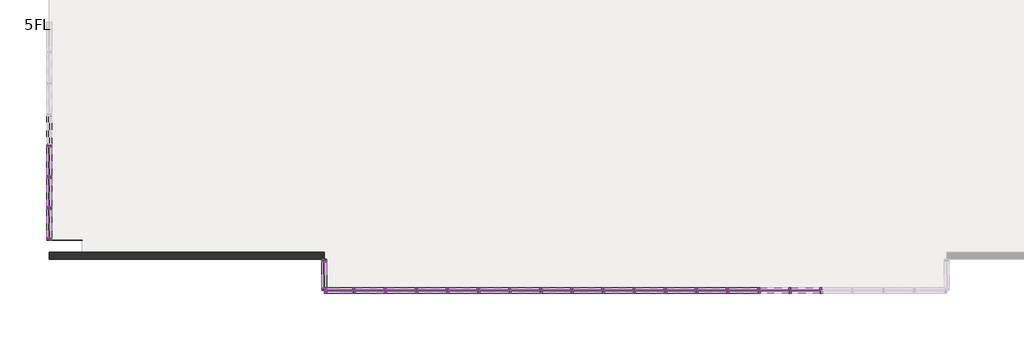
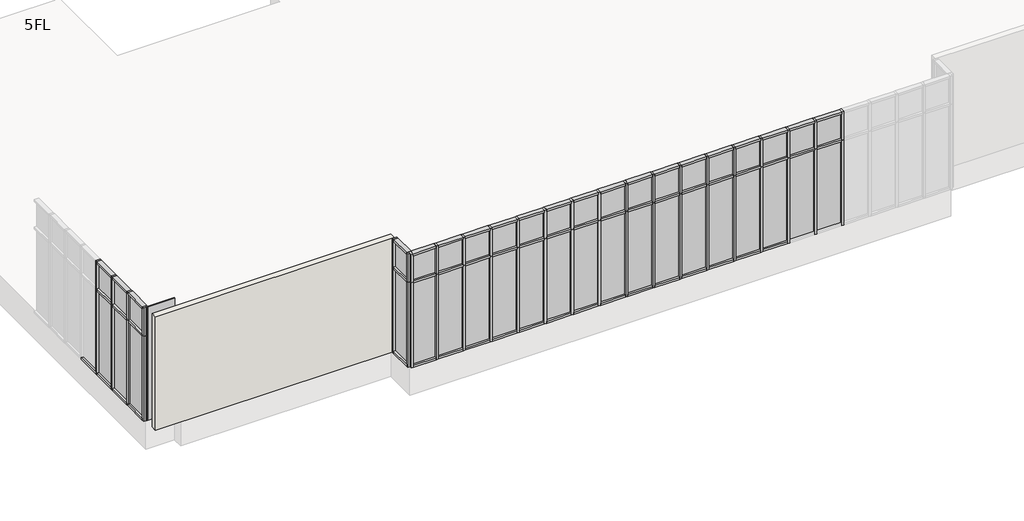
# One storey, part 1 of 4: 105 members, 42 plates, 1 wall.
"""IFC4 building model written with IfcOpenShell, lengths in millimetres."""

from ifc_helpers import new_model, si_unit, frame, origin, place, context, project, spatial, polyline, outline, extrude, transform, mapped, element, save
from components import member_70x150_cdd4dcf9, member_70x150_9a135ce4, member_70x150_66cf63de, member_70x150_26475b18, member_70x150_ad4265bc, member_70x150_e0eddb57, member_70x150_1b280ac3, member_70x150_76429c73, plate_d1366ea1, plate_ab860a3c, plate_28587fd3, plate_4b01b467, plate_396bcf3c, plate_83f08a3e

model = new_model("IFC4")

# Units and contexts
model_context = context("Model", 3, world=origin())
ifc_project = project(units=[si_unit("LENGTHUNIT", "METRE", prefix="MILLI")], contexts=[model_context])

# Site, building, storey
site = spatial("IfcSite", under=ifc_project)
building = spatial("IfcBuilding", under=site)
storey = spatial("IfcBuildingStorey", under=building, Name="5FL", Elevation=16600.0)

# Members
placement = place(None, origin())
member_70x150_shape = member_70x150_cdd4dcf9(model_context)
element("IfcMember", 1, ObjectType="長方形のマリオン : 70x150", at=placement, inside=storey, context=model_context, shape_type="MappedRepresentation", body=[
    mapped(member_70x150_shape, transform((-19630.9784025, -4550.3131013, 16600.0), x_axis=(-1.0, 0.0, 0.0), y_axis=(0.0, 1.0, 0.0), z_axis=(0.0, 0.0, -1.0))),
])
element("IfcMember", 2, ObjectType="長方形のマリオン : 70x150", at=placement, inside=storey, context=model_context, shape_type="MappedRepresentation", body=[
    mapped(member_70x150_shape, transform((-16030.9784025, -4550.3131013, 16600.0), x_axis=(-1.0, 0.0, 0.0), y_axis=(0.0, 1.0, 0.0), z_axis=(0.0, 0.0, -1.0))),
])
element("IfcMember", 3, ObjectType="長方形のマリオン : 70x150", at=placement, inside=storey, context=model_context, shape_type="MappedRepresentation", body=[
    mapped(member_70x150_shape, transform((-20530.9784025, -4550.3131013, 16600.0), x_axis=(-1.0, 0.0, 0.0), y_axis=(0.0, 1.0, 0.0), z_axis=(0.0, 0.0, -1.0))),
])
element("IfcMember", 4, ObjectType="長方形のマリオン : 70x150", at=placement, inside=storey, context=model_context, shape_type="MappedRepresentation", body=[
    mapped(member_70x150_shape, transform((-17830.9784025, -4550.3131013, 16600.0), x_axis=(-1.0, 0.0, 0.0), y_axis=(0.0, 1.0, 0.0), z_axis=(0.0, 0.0, -1.0))),
])
element("IfcMember", 5, ObjectType="長方形のマリオン : 70x150", at=placement, inside=storey, context=model_context, shape_type="MappedRepresentation", body=[
    mapped(member_70x150_shape, transform((-14230.9784025, -4550.3131013, 16600.0), x_axis=(-1.0, 0.0, 0.0), y_axis=(0.0, 1.0, 0.0), z_axis=(0.0, 0.0, -1.0))),
])
element("IfcMember", 6, ObjectType="長方形のマリオン : 70x150", at=placement, inside=storey, context=model_context, shape_type="MappedRepresentation", body=[
    mapped(member_70x150_shape, transform((-18730.9784025, -4550.3131013, 16600.0), x_axis=(-1.0, 0.0, 0.0), y_axis=(0.0, 1.0, 0.0), z_axis=(0.0, 0.0, -1.0))),
])
element("IfcMember", 7, ObjectType="長方形のマリオン : 70x150", at=placement, inside=storey, context=model_context, shape_type="MappedRepresentation", body=[
    mapped(member_70x150_shape, transform((-15130.9784025, -4550.3131013, 16600.0), x_axis=(-1.0, 0.0, 0.0), y_axis=(0.0, 1.0, 0.0), z_axis=(0.0, 0.0, -1.0))),
])
element("IfcMember", 8, ObjectType="長方形のマリオン : 70x150", at=placement, inside=storey, context=model_context, shape_type="MappedRepresentation", body=[
    mapped(member_70x150_shape, transform((-13330.9784025, -4550.3131013, 16600.0), x_axis=(-1.0, 0.0, 0.0), y_axis=(0.0, 1.0, 0.0), z_axis=(0.0, 0.0, -1.0))),
])
element("IfcMember", 9, ObjectType="長方形のマリオン : 70x150", at=placement, inside=storey, context=model_context, shape_type="MappedRepresentation", body=[
    mapped(member_70x150_shape, transform((-16930.9784025, -4550.3131013, 16600.0), x_axis=(-1.0, 0.0, 0.0), y_axis=(0.0, 1.0, 0.0), z_axis=(0.0, 0.0, -1.0))),
])
element("IfcMember", 10, ObjectType="長方形のマリオン : 70x150", at=placement, inside=storey, context=model_context, shape_type="MappedRepresentation", body=[
    mapped(member_70x150_shape, transform((-12430.9784025, -4550.3131013, 16600.0), x_axis=(-1.0, 0.0, 0.0), y_axis=(0.0, 1.0, 0.0), z_axis=(0.0, 0.0, -1.0))),
])
element("IfcMember", 11, ObjectType="長方形のマリオン : 70x150", at=placement, inside=storey, context=model_context, shape_type="MappedRepresentation", body=[
    mapped(member_70x150_shape, transform((-10630.9784025, -4550.3131013, 16600.0), x_axis=(-1.0, 0.0, 0.0), y_axis=(0.0, 1.0, 0.0), z_axis=(0.0, 0.0, -1.0))),
])
element("IfcMember", 12, ObjectType="長方形のマリオン : 70x150", at=placement, inside=storey, context=model_context, shape_type="MappedRepresentation", body=[
    mapped(member_70x150_shape, transform((-7930.9784025, -4550.3131013, 16600.0), x_axis=(-1.0, 0.0, 0.0), y_axis=(0.0, 1.0, 0.0), z_axis=(0.0, 0.0, -1.0))),
])
element("IfcMember", 13, ObjectType="長方形のマリオン : 70x150", at=placement, inside=storey, context=model_context, shape_type="MappedRepresentation", body=[
    mapped(member_70x150_shape, transform((-9730.9784025, -4550.3131013, 16600.0), x_axis=(-1.0, 0.0, 0.0), y_axis=(0.0, 1.0, 0.0), z_axis=(0.0, 0.0, -1.0))),
])
element("IfcMember", 14, ObjectType="長方形のマリオン : 70x150", at=placement, inside=storey, context=model_context, shape_type="MappedRepresentation", body=[
    mapped(member_70x150_shape, transform((-11530.9784025, -4550.3131013, 16600.0), x_axis=(-1.0, 0.0, 0.0), y_axis=(0.0, 1.0, 0.0), z_axis=(0.0, 0.0, -1.0))),
])
element("IfcMember", 15, ObjectType="長方形のマリオン : 70x150", at=placement, inside=storey, context=model_context, shape_type="MappedRepresentation", body=[
    mapped(member_70x150_shape, transform((-8830.9784025, -4550.3131013, 16600.0), x_axis=(-1.0, 0.0, 0.0), y_axis=(0.0, 1.0, 0.0), z_axis=(0.0, 0.0, -1.0))),
])
element("IfcMember", 16, ObjectType="長方形のマリオン : 70x150", at=placement, inside=storey, context=model_context, shape_type="MappedRepresentation", body=[
    mapped(member_70x150_shape, transform((-7030.9784025, -4550.3131013, 16600.0), x_axis=(-1.0, 0.0, 0.0), y_axis=(0.0, 1.0, 0.0), z_axis=(0.0, 0.0, -1.0))),
])
element("IfcMember", 17, ObjectType="長方形のマリオン : 70x150", at=placement, inside=storey, context=model_context, shape_type="MappedRepresentation", body=[
    mapped(member_70x150_shape, transform((-29345.9784025, -365.3131013, 16600.0), x_axis=(0.0, 1.0, 0.0), y_axis=(1.0, 0.0, 0.0), z_axis=(0.0, 0.0, -1.0))),
])
element("IfcMember", 18, ObjectType="長方形のマリオン : 70x150", at=placement, inside=storey, context=model_context, shape_type="MappedRepresentation", body=[
    mapped(member_70x150_shape, transform((-29345.9784025, -2165.3131013, 16600.0), x_axis=(0.0, 1.0, 0.0), y_axis=(1.0, 0.0, 0.0), z_axis=(0.0, 0.0, -1.0))),
])
element("IfcMember", 19, ObjectType="長方形のマリオン : 70x150", at=placement, inside=storey, context=model_context, shape_type="MappedRepresentation", body=[
    mapped(member_70x150_shape, transform((-29345.9784025, -1265.3131013, 16600.0), x_axis=(0.0, 1.0, 0.0), y_axis=(1.0, 0.0, 0.0), z_axis=(0.0, 0.0, -1.0))),
])
member_70x150_2_shape = member_70x150_9a135ce4(model_context)
element("IfcMember", 20, ObjectType="長方形のマリオン : 70x150", at=placement, inside=storey, context=model_context, shape_type="MappedRepresentation", body=[
    mapped(member_70x150_2_shape, transform((-21325.9784025, -4550.3131013, 20600.0), x_axis=(0.0, 0.0, 1.0), y_axis=(0.0, 1.0, 0.0), z_axis=(-1.0, 0.0, 0.0))),
])
element("IfcMember", 21, ObjectType="長方形のマリオン : 70x150", at=placement, inside=storey, context=model_context, shape_type="MappedRepresentation", body=[
    mapped(member_70x150_2_shape, transform((-21395.9784025, -3720.3131013, 20600.0), x_axis=(0.0, 0.0, 1.0), y_axis=(1.0, 0.0, 0.0), z_axis=(0.0, 1.0, 0.0))),
])
member_70x150_3_shape = member_70x150_66cf63de(model_context)
element("IfcMember", 22, ObjectType="長方形のマリオン : 70x150", at=placement, inside=storey, context=model_context, shape_type="MappedRepresentation", body=[
    mapped(member_70x150_3_shape, transform((-19665.9784025, -4550.3131013, 16600.0), x_axis=(0.0, 0.0, -1.0), y_axis=(0.0, 1.0, 0.0), z_axis=(1.0, 0.0, 0.0))),
])
element("IfcMember", 23, ObjectType="長方形のマリオン : 70x150", at=placement, inside=storey, context=model_context, shape_type="MappedRepresentation", body=[
    mapped(member_70x150_3_shape, transform((-18765.9784025, -4550.3131013, 16600.0), x_axis=(0.0, 0.0, -1.0), y_axis=(0.0, 1.0, 0.0), z_axis=(1.0, 0.0, 0.0))),
])
element("IfcMember", 24, ObjectType="長方形のマリオン : 70x150", at=placement, inside=storey, context=model_context, shape_type="MappedRepresentation", body=[
    mapped(member_70x150_3_shape, transform((-17865.9784025, -4550.3131013, 16600.0), x_axis=(0.0, 0.0, -1.0), y_axis=(0.0, 1.0, 0.0), z_axis=(1.0, 0.0, 0.0))),
])
element("IfcMember", 25, ObjectType="長方形のマリオン : 70x150", at=placement, inside=storey, context=model_context, shape_type="MappedRepresentation", body=[
    mapped(member_70x150_3_shape, transform((-16965.9784025, -4550.3131013, 16600.0), x_axis=(0.0, 0.0, -1.0), y_axis=(0.0, 1.0, 0.0), z_axis=(1.0, 0.0, 0.0))),
])
element("IfcMember", 26, ObjectType="長方形のマリオン : 70x150", at=placement, inside=storey, context=model_context, shape_type="MappedRepresentation", body=[
    mapped(member_70x150_3_shape, transform((-16065.9784025, -4550.3131013, 16600.0), x_axis=(0.0, 0.0, -1.0), y_axis=(0.0, 1.0, 0.0), z_axis=(1.0, 0.0, 0.0))),
])
element("IfcMember", 27, ObjectType="長方形のマリオン : 70x150", at=placement, inside=storey, context=model_context, shape_type="MappedRepresentation", body=[
    mapped(member_70x150_3_shape, transform((-11565.9784025, -4550.3131013, 16600.0), x_axis=(0.0, 0.0, -1.0), y_axis=(0.0, 1.0, 0.0), z_axis=(1.0, 0.0, 0.0))),
])
element("IfcMember", 28, ObjectType="長方形のマリオン : 70x150", at=placement, inside=storey, context=model_context, shape_type="MappedRepresentation", body=[
    mapped(member_70x150_3_shape, transform((-9765.9784025, -4550.3131013, 16600.0), x_axis=(0.0, 0.0, -1.0), y_axis=(0.0, 1.0, 0.0), z_axis=(1.0, 0.0, 0.0))),
])
element("IfcMember", 29, ObjectType="長方形のマリオン : 70x150", at=placement, inside=storey, context=model_context, shape_type="MappedRepresentation", body=[
    mapped(member_70x150_3_shape, transform((-13365.9784025, -4550.3131013, 16600.0), x_axis=(0.0, 0.0, -1.0), y_axis=(0.0, 1.0, 0.0), z_axis=(1.0, 0.0, 0.0))),
])
element("IfcMember", 30, ObjectType="長方形のマリオン : 70x150", at=placement, inside=storey, context=model_context, shape_type="MappedRepresentation", body=[
    mapped(member_70x150_3_shape, transform((-12465.9784025, -4550.3131013, 16600.0), x_axis=(0.0, 0.0, -1.0), y_axis=(0.0, 1.0, 0.0), z_axis=(1.0, 0.0, 0.0))),
])
element("IfcMember", 31, ObjectType="長方形のマリオン : 70x150", at=placement, inside=storey, context=model_context, shape_type="MappedRepresentation", body=[
    mapped(member_70x150_3_shape, transform((-14265.9784025, -4550.3131013, 16600.0), x_axis=(0.0, 0.0, -1.0), y_axis=(0.0, 1.0, 0.0), z_axis=(1.0, 0.0, 0.0))),
])
element("IfcMember", 32, ObjectType="長方形のマリオン : 70x150", at=placement, inside=storey, context=model_context, shape_type="MappedRepresentation", body=[
    mapped(member_70x150_3_shape, transform((-10665.9784025, -4550.3131013, 16600.0), x_axis=(0.0, 0.0, -1.0), y_axis=(0.0, 1.0, 0.0), z_axis=(1.0, 0.0, 0.0))),
])
element("IfcMember", 33, ObjectType="長方形のマリオン : 70x150", at=placement, inside=storey, context=model_context, shape_type="MappedRepresentation", body=[
    mapped(member_70x150_3_shape, transform((-15165.9784025, -4550.3131013, 16600.0), x_axis=(0.0, 0.0, -1.0), y_axis=(0.0, 1.0, 0.0), z_axis=(1.0, 0.0, 0.0))),
])
element("IfcMember", 34, ObjectType="長方形のマリオン : 70x150", at=placement, inside=storey, context=model_context, shape_type="MappedRepresentation", body=[
    mapped(member_70x150_3_shape, transform((-8865.9784025, -4550.3131013, 16600.0), x_axis=(0.0, 0.0, -1.0), y_axis=(0.0, 1.0, 0.0), z_axis=(1.0, 0.0, 0.0))),
])
element("IfcMember", 35, ObjectType="長方形のマリオン : 70x150", at=placement, inside=storey, context=model_context, shape_type="MappedRepresentation", body=[
    mapped(member_70x150_3_shape, transform((-29345.9784025, -330.3131013, 16600.0), x_axis=(0.0, 0.0, -1.0), y_axis=(1.0, 0.0, 0.0), z_axis=(0.0, -1.0, 0.0))),
])
element("IfcMember", 36, ObjectType="長方形のマリオン : 70x150", at=placement, inside=storey, context=model_context, shape_type="MappedRepresentation", body=[
    mapped(member_70x150_3_shape, transform((-29345.9784025, -1230.3131013, 16600.0), x_axis=(0.0, 0.0, -1.0), y_axis=(1.0, 0.0, 0.0), z_axis=(0.0, -1.0, 0.0))),
])
element("IfcMember", 37, ObjectType="長方形のマリオン : 70x150", at=placement, inside=storey, context=model_context, shape_type="MappedRepresentation", body=[
    mapped(member_70x150_3_shape, transform((-29345.9784025, -2130.3131013, 16600.0), x_axis=(0.0, 0.0, -1.0), y_axis=(1.0, 0.0, 0.0), z_axis=(0.0, -1.0, 0.0))),
])
element("IfcMember", 38, ObjectType="長方形のマリオン : 70x150", at=placement, inside=storey, context=model_context, shape_type="MappedRepresentation", body=[
    mapped(member_70x150_3_shape, transform((-29345.9784025, -3030.3131013, 16600.0), x_axis=(0.0, 0.0, -1.0), y_axis=(1.0, 0.0, 0.0), z_axis=(0.0, -1.0, 0.0))),
])
element("IfcMember", 39, ObjectType="長方形のマリオン : 70x150", at=placement, inside=storey, context=model_context, shape_type="MappedRepresentation", body=[
    mapped(member_70x150_3_shape, transform((-19595.9784025, -4550.3131013, 20600.0), x_axis=(0.0, 0.0, 1.0), y_axis=(0.0, 1.0, 0.0), z_axis=(-1.0, 0.0, 0.0))),
])
element("IfcMember", 40, ObjectType="長方形のマリオン : 70x150", at=placement, inside=storey, context=model_context, shape_type="MappedRepresentation", body=[
    mapped(member_70x150_3_shape, transform((-18695.9784025, -4550.3131013, 20600.0), x_axis=(0.0, 0.0, 1.0), y_axis=(0.0, 1.0, 0.0), z_axis=(-1.0, 0.0, 0.0))),
])
element("IfcMember", 41, ObjectType="長方形のマリオン : 70x150", at=placement, inside=storey, context=model_context, shape_type="MappedRepresentation", body=[
    mapped(member_70x150_3_shape, transform((-17795.9784025, -4550.3131013, 20600.0), x_axis=(0.0, 0.0, 1.0), y_axis=(0.0, 1.0, 0.0), z_axis=(-1.0, 0.0, 0.0))),
])
element("IfcMember", 42, ObjectType="長方形のマリオン : 70x150", at=placement, inside=storey, context=model_context, shape_type="MappedRepresentation", body=[
    mapped(member_70x150_3_shape, transform((-16895.9784025, -4550.3131013, 20600.0), x_axis=(0.0, 0.0, 1.0), y_axis=(0.0, 1.0, 0.0), z_axis=(-1.0, 0.0, 0.0))),
])
element("IfcMember", 43, ObjectType="長方形のマリオン : 70x150", at=placement, inside=storey, context=model_context, shape_type="MappedRepresentation", body=[
    mapped(member_70x150_3_shape, transform((-15995.9784025, -4550.3131013, 20600.0), x_axis=(0.0, 0.0, 1.0), y_axis=(0.0, 1.0, 0.0), z_axis=(-1.0, 0.0, 0.0))),
])
element("IfcMember", 44, ObjectType="長方形のマリオン : 70x150", at=placement, inside=storey, context=model_context, shape_type="MappedRepresentation", body=[
    mapped(member_70x150_3_shape, transform((-15095.9784025, -4550.3131013, 20600.0), x_axis=(0.0, 0.0, 1.0), y_axis=(0.0, 1.0, 0.0), z_axis=(-1.0, 0.0, 0.0))),
])
element("IfcMember", 45, ObjectType="長方形のマリオン : 70x150", at=placement, inside=storey, context=model_context, shape_type="MappedRepresentation", body=[
    mapped(member_70x150_3_shape, transform((-14195.9784025, -4550.3131013, 20600.0), x_axis=(0.0, 0.0, 1.0), y_axis=(0.0, 1.0, 0.0), z_axis=(-1.0, 0.0, 0.0))),
])
element("IfcMember", 46, ObjectType="長方形のマリオン : 70x150", at=placement, inside=storey, context=model_context, shape_type="MappedRepresentation", body=[
    mapped(member_70x150_3_shape, transform((-13295.9784025, -4550.3131013, 20600.0), x_axis=(0.0, 0.0, 1.0), y_axis=(0.0, 1.0, 0.0), z_axis=(-1.0, 0.0, 0.0))),
])
element("IfcMember", 47, ObjectType="長方形のマリオン : 70x150", at=placement, inside=storey, context=model_context, shape_type="MappedRepresentation", body=[
    mapped(member_70x150_3_shape, transform((-12395.9784025, -4550.3131013, 20600.0), x_axis=(0.0, 0.0, 1.0), y_axis=(0.0, 1.0, 0.0), z_axis=(-1.0, 0.0, 0.0))),
])
element("IfcMember", 48, ObjectType="長方形のマリオン : 70x150", at=placement, inside=storey, context=model_context, shape_type="MappedRepresentation", body=[
    mapped(member_70x150_3_shape, transform((-11495.9784025, -4550.3131013, 20600.0), x_axis=(0.0, 0.0, 1.0), y_axis=(0.0, 1.0, 0.0), z_axis=(-1.0, 0.0, 0.0))),
])
element("IfcMember", 49, ObjectType="長方形のマリオン : 70x150", at=placement, inside=storey, context=model_context, shape_type="MappedRepresentation", body=[
    mapped(member_70x150_3_shape, transform((-10595.9784025, -4550.3131013, 20600.0), x_axis=(0.0, 0.0, 1.0), y_axis=(0.0, 1.0, 0.0), z_axis=(-1.0, 0.0, 0.0))),
])
element("IfcMember", 50, ObjectType="長方形のマリオン : 70x150", at=placement, inside=storey, context=model_context, shape_type="MappedRepresentation", body=[
    mapped(member_70x150_3_shape, transform((-9695.9784025, -4550.3131013, 20600.0), x_axis=(0.0, 0.0, 1.0), y_axis=(0.0, 1.0, 0.0), z_axis=(-1.0, 0.0, 0.0))),
])
element("IfcMember", 51, ObjectType="長方形のマリオン : 70x150", at=placement, inside=storey, context=model_context, shape_type="MappedRepresentation", body=[
    mapped(member_70x150_3_shape, transform((-8795.9784025, -4550.3131013, 20600.0), x_axis=(0.0, 0.0, 1.0), y_axis=(0.0, 1.0, 0.0), z_axis=(-1.0, 0.0, 0.0))),
])
element("IfcMember", 52, ObjectType="長方形のマリオン : 70x150", at=placement, inside=storey, context=model_context, shape_type="MappedRepresentation", body=[
    mapped(member_70x150_3_shape, transform((-7895.9784025, -4550.3131013, 20600.0), x_axis=(0.0, 0.0, 1.0), y_axis=(0.0, 1.0, 0.0), z_axis=(-1.0, 0.0, 0.0))),
])
element("IfcMember", 53, ObjectType="長方形のマリオン : 70x150", at=placement, inside=storey, context=model_context, shape_type="MappedRepresentation", body=[
    mapped(member_70x150_3_shape, transform((-20495.9784025, -4550.3131013, 20600.0), x_axis=(0.0, 0.0, 1.0), y_axis=(0.0, 1.0, 0.0), z_axis=(-1.0, 0.0, 0.0))),
])
element("IfcMember", 54, ObjectType="長方形のマリオン : 70x150", at=placement, inside=storey, context=model_context, shape_type="MappedRepresentation", body=[
    mapped(member_70x150_3_shape, transform((-29345.9784025, -400.3131013, 20600.0), x_axis=(0.0, 0.0, 1.0), y_axis=(1.0, 0.0, 0.0), z_axis=(0.0, 1.0, 0.0))),
])
element("IfcMember", 55, ObjectType="長方形のマリオン : 70x150", at=placement, inside=storey, context=model_context, shape_type="MappedRepresentation", body=[
    mapped(member_70x150_3_shape, transform((-29345.9784025, -1300.3131013, 20600.0), x_axis=(0.0, 0.0, 1.0), y_axis=(1.0, 0.0, 0.0), z_axis=(0.0, 1.0, 0.0))),
])
element("IfcMember", 56, ObjectType="長方形のマリオン : 70x150", at=placement, inside=storey, context=model_context, shape_type="MappedRepresentation", body=[
    mapped(member_70x150_3_shape, transform((-29345.9784025, -2200.3131013, 20600.0), x_axis=(0.0, 0.0, 1.0), y_axis=(1.0, 0.0, 0.0), z_axis=(0.0, 1.0, 0.0))),
])
element("IfcMember", 57, ObjectType="長方形のマリオン : 70x150", at=placement, inside=storey, context=model_context, shape_type="MappedRepresentation", body=[
    mapped(member_70x150_2_shape, transform((-20565.9784025, -4550.3131013, 16600.0), x_axis=(0.0, 0.0, -1.0), y_axis=(0.0, 1.0, 0.0), z_axis=(1.0, 0.0, 0.0))),
])
element("IfcMember", 58, ObjectType="長方形のマリオン : 70x150", at=placement, inside=storey, context=model_context, shape_type="MappedRepresentation", body=[
    mapped(member_70x150_2_shape, transform((-21395.9784025, -4480.3131013, 16600.0), x_axis=(0.0, 0.0, -1.0), y_axis=(1.0, 0.0, 0.0), z_axis=(0.0, -1.0, 0.0))),
])
member_70x150_4_shape = member_70x150_26475b18(model_context)
element("IfcMember", 59, ObjectType="長方形のマリオン : 70x150", at=placement, inside=storey, context=model_context, shape_type="MappedRepresentation", body=[
    mapped(member_70x150_4_shape, transform((-20530.9784025, -4550.3131013, 19600.0), x_axis=(-1.0, 0.0, 0.0), y_axis=(0.0, 1.0, 0.0), z_axis=(0.0, 0.0, -1.0))),
])
element("IfcMember", 60, ObjectType="長方形のマリオン : 70x150", at=placement, inside=storey, context=model_context, shape_type="MappedRepresentation", body=[
    mapped(member_70x150_4_shape, transform((-19630.9784025, -4550.3131013, 19600.0), x_axis=(-1.0, 0.0, 0.0), y_axis=(0.0, 1.0, 0.0), z_axis=(0.0, 0.0, -1.0))),
])
element("IfcMember", 61, ObjectType="長方形のマリオン : 70x150", at=placement, inside=storey, context=model_context, shape_type="MappedRepresentation", body=[
    mapped(member_70x150_4_shape, transform((-18730.9784025, -4550.3131013, 19600.0), x_axis=(-1.0, 0.0, 0.0), y_axis=(0.0, 1.0, 0.0), z_axis=(0.0, 0.0, -1.0))),
])
element("IfcMember", 62, ObjectType="長方形のマリオン : 70x150", at=placement, inside=storey, context=model_context, shape_type="MappedRepresentation", body=[
    mapped(member_70x150_4_shape, transform((-17830.9784025, -4550.3131013, 19600.0), x_axis=(-1.0, 0.0, 0.0), y_axis=(0.0, 1.0, 0.0), z_axis=(0.0, 0.0, -1.0))),
])
element("IfcMember", 63, ObjectType="長方形のマリオン : 70x150", at=placement, inside=storey, context=model_context, shape_type="MappedRepresentation", body=[
    mapped(member_70x150_4_shape, transform((-16930.9784025, -4550.3131013, 19600.0), x_axis=(-1.0, 0.0, 0.0), y_axis=(0.0, 1.0, 0.0), z_axis=(0.0, 0.0, -1.0))),
])
element("IfcMember", 64, ObjectType="長方形のマリオン : 70x150", at=placement, inside=storey, context=model_context, shape_type="MappedRepresentation", body=[
    mapped(member_70x150_4_shape, transform((-16030.9784025, -4550.3131013, 19600.0), x_axis=(-1.0, 0.0, 0.0), y_axis=(0.0, 1.0, 0.0), z_axis=(0.0, 0.0, -1.0))),
])
element("IfcMember", 65, ObjectType="長方形のマリオン : 70x150", at=placement, inside=storey, context=model_context, shape_type="MappedRepresentation", body=[
    mapped(member_70x150_4_shape, transform((-15130.9784025, -4550.3131013, 19600.0), x_axis=(-1.0, 0.0, 0.0), y_axis=(0.0, 1.0, 0.0), z_axis=(0.0, 0.0, -1.0))),
])
element("IfcMember", 66, ObjectType="長方形のマリオン : 70x150", at=placement, inside=storey, context=model_context, shape_type="MappedRepresentation", body=[
    mapped(member_70x150_4_shape, transform((-14230.9784025, -4550.3131013, 19600.0), x_axis=(-1.0, 0.0, 0.0), y_axis=(0.0, 1.0, 0.0), z_axis=(0.0, 0.0, -1.0))),
])
element("IfcMember", 67, ObjectType="長方形のマリオン : 70x150", at=placement, inside=storey, context=model_context, shape_type="MappedRepresentation", body=[
    mapped(member_70x150_4_shape, transform((-13330.9784025, -4550.3131013, 19600.0), x_axis=(-1.0, 0.0, 0.0), y_axis=(0.0, 1.0, 0.0), z_axis=(0.0, 0.0, -1.0))),
])
element("IfcMember", 68, ObjectType="長方形のマリオン : 70x150", at=placement, inside=storey, context=model_context, shape_type="MappedRepresentation", body=[
    mapped(member_70x150_4_shape, transform((-12430.9784025, -4550.3131013, 19600.0), x_axis=(-1.0, 0.0, 0.0), y_axis=(0.0, 1.0, 0.0), z_axis=(0.0, 0.0, -1.0))),
])
element("IfcMember", 69, ObjectType="長方形のマリオン : 70x150", at=placement, inside=storey, context=model_context, shape_type="MappedRepresentation", body=[
    mapped(member_70x150_4_shape, transform((-11530.9784025, -4550.3131013, 19600.0), x_axis=(-1.0, 0.0, 0.0), y_axis=(0.0, 1.0, 0.0), z_axis=(0.0, 0.0, -1.0))),
])
element("IfcMember", 70, ObjectType="長方形のマリオン : 70x150", at=placement, inside=storey, context=model_context, shape_type="MappedRepresentation", body=[
    mapped(member_70x150_4_shape, transform((-10630.9784025, -4550.3131013, 19600.0), x_axis=(-1.0, 0.0, 0.0), y_axis=(0.0, 1.0, 0.0), z_axis=(0.0, 0.0, -1.0))),
])
element("IfcMember", 71, ObjectType="長方形のマリオン : 70x150", at=placement, inside=storey, context=model_context, shape_type="MappedRepresentation", body=[
    mapped(member_70x150_4_shape, transform((-9730.9784025, -4550.3131013, 19600.0), x_axis=(-1.0, 0.0, 0.0), y_axis=(0.0, 1.0, 0.0), z_axis=(0.0, 0.0, -1.0))),
])
element("IfcMember", 72, ObjectType="長方形のマリオン : 70x150", at=placement, inside=storey, context=model_context, shape_type="MappedRepresentation", body=[
    mapped(member_70x150_4_shape, transform((-8830.9784025, -4550.3131013, 19600.0), x_axis=(-1.0, 0.0, 0.0), y_axis=(0.0, 1.0, 0.0), z_axis=(0.0, 0.0, -1.0))),
])
element("IfcMember", 73, ObjectType="長方形のマリオン : 70x150", at=placement, inside=storey, context=model_context, shape_type="MappedRepresentation", body=[
    mapped(member_70x150_4_shape, transform((-7930.9784025, -4550.3131013, 19600.0), x_axis=(-1.0, 0.0, 0.0), y_axis=(0.0, 1.0, 0.0), z_axis=(0.0, 0.0, -1.0))),
])
element("IfcMember", 74, ObjectType="長方形のマリオン : 70x150", at=placement, inside=storey, context=model_context, shape_type="MappedRepresentation", body=[
    mapped(member_70x150_4_shape, transform((-7030.9784025, -4550.3131013, 19600.0), x_axis=(-1.0, 0.0, 0.0), y_axis=(0.0, 1.0, 0.0), z_axis=(0.0, 0.0, -1.0))),
])
element("IfcMember", 75, ObjectType="長方形のマリオン : 70x150", at=placement, inside=storey, context=model_context, shape_type="MappedRepresentation", body=[
    mapped(member_70x150_4_shape, transform((-29345.9784025, -365.3131013, 19600.0), x_axis=(0.0, 1.0, 0.0), y_axis=(1.0, 0.0, 0.0), z_axis=(0.0, 0.0, -1.0))),
])
element("IfcMember", 76, ObjectType="長方形のマリオン : 70x150", at=placement, inside=storey, context=model_context, shape_type="MappedRepresentation", body=[
    mapped(member_70x150_4_shape, transform((-29345.9784025, -2165.3131013, 19600.0), x_axis=(0.0, 1.0, 0.0), y_axis=(1.0, 0.0, 0.0), z_axis=(0.0, 0.0, -1.0))),
])
element("IfcMember", 77, ObjectType="長方形のマリオン : 70x150", at=placement, inside=storey, context=model_context, shape_type="MappedRepresentation", body=[
    mapped(member_70x150_4_shape, transform((-29345.9784025, -1265.3131013, 19600.0), x_axis=(0.0, 1.0, 0.0), y_axis=(1.0, 0.0, 0.0), z_axis=(0.0, 0.0, -1.0))),
])
member_70x150_5_shape = member_70x150_ad4265bc(model_context)
element("IfcMember", 78, ObjectType="長方形のマリオン : 70x150", at=placement, inside=storey, context=model_context, shape_type="MappedRepresentation", body=[
    mapped(member_70x150_5_shape, transform((-17795.9784025, -4550.3131013, 19600.0), x_axis=(0.0, 0.0, 1.0), y_axis=(0.0, 1.0, 0.0), z_axis=(-1.0, 0.0, 0.0))),
])
element("IfcMember", 79, ObjectType="長方形のマリオン : 70x150", at=placement, inside=storey, context=model_context, shape_type="MappedRepresentation", body=[
    mapped(member_70x150_5_shape, transform((-13295.9784025, -4550.3131013, 19600.0), x_axis=(0.0, 0.0, 1.0), y_axis=(0.0, 1.0, 0.0), z_axis=(-1.0, 0.0, 0.0))),
])
element("IfcMember", 80, ObjectType="長方形のマリオン : 70x150", at=placement, inside=storey, context=model_context, shape_type="MappedRepresentation", body=[
    mapped(member_70x150_5_shape, transform((-12395.9784025, -4550.3131013, 19600.0), x_axis=(0.0, 0.0, 1.0), y_axis=(0.0, 1.0, 0.0), z_axis=(-1.0, 0.0, 0.0))),
])
element("IfcMember", 81, ObjectType="長方形のマリオン : 70x150", at=placement, inside=storey, context=model_context, shape_type="MappedRepresentation", body=[
    mapped(member_70x150_5_shape, transform((-9695.9784025, -4550.3131013, 19600.0), x_axis=(0.0, 0.0, 1.0), y_axis=(0.0, 1.0, 0.0), z_axis=(-1.0, 0.0, 0.0))),
])
element("IfcMember", 82, ObjectType="長方形のマリオン : 70x150", at=placement, inside=storey, context=model_context, shape_type="MappedRepresentation", body=[
    mapped(member_70x150_5_shape, transform((-15995.9784025, -4550.3131013, 19600.0), x_axis=(0.0, 0.0, 1.0), y_axis=(0.0, 1.0, 0.0), z_axis=(-1.0, 0.0, 0.0))),
])
element("IfcMember", 83, ObjectType="長方形のマリオン : 70x150", at=placement, inside=storey, context=model_context, shape_type="MappedRepresentation", body=[
    mapped(member_70x150_5_shape, transform((-15095.9784025, -4550.3131013, 19600.0), x_axis=(0.0, 0.0, 1.0), y_axis=(0.0, 1.0, 0.0), z_axis=(-1.0, 0.0, 0.0))),
])
element("IfcMember", 84, ObjectType="長方形のマリオン : 70x150", at=placement, inside=storey, context=model_context, shape_type="MappedRepresentation", body=[
    mapped(member_70x150_5_shape, transform((-16895.9784025, -4550.3131013, 19600.0), x_axis=(0.0, 0.0, 1.0), y_axis=(0.0, 1.0, 0.0), z_axis=(-1.0, 0.0, 0.0))),
])
element("IfcMember", 85, ObjectType="長方形のマリオン : 70x150", at=placement, inside=storey, context=model_context, shape_type="MappedRepresentation", body=[
    mapped(member_70x150_5_shape, transform((-8795.9784025, -4550.3131013, 19600.0), x_axis=(0.0, 0.0, 1.0), y_axis=(0.0, 1.0, 0.0), z_axis=(-1.0, 0.0, 0.0))),
])
element("IfcMember", 86, ObjectType="長方形のマリオン : 70x150", at=placement, inside=storey, context=model_context, shape_type="MappedRepresentation", body=[
    mapped(member_70x150_5_shape, transform((-11495.9784025, -4550.3131013, 19600.0), x_axis=(0.0, 0.0, 1.0), y_axis=(0.0, 1.0, 0.0), z_axis=(-1.0, 0.0, 0.0))),
])
element("IfcMember", 87, ObjectType="長方形のマリオン : 70x150", at=placement, inside=storey, context=model_context, shape_type="MappedRepresentation", body=[
    mapped(member_70x150_5_shape, transform((-14195.9784025, -4550.3131013, 19600.0), x_axis=(0.0, 0.0, 1.0), y_axis=(0.0, 1.0, 0.0), z_axis=(-1.0, 0.0, 0.0))),
])
element("IfcMember", 88, ObjectType="長方形のマリオン : 70x150", at=placement, inside=storey, context=model_context, shape_type="MappedRepresentation", body=[
    mapped(member_70x150_5_shape, transform((-7895.9784025, -4550.3131013, 19600.0), x_axis=(0.0, 0.0, 1.0), y_axis=(0.0, 1.0, 0.0), z_axis=(-1.0, 0.0, 0.0))),
])
element("IfcMember", 89, ObjectType="長方形のマリオン : 70x150", at=placement, inside=storey, context=model_context, shape_type="MappedRepresentation", body=[
    mapped(member_70x150_5_shape, transform((-19595.9784025, -4550.3131013, 19600.0), x_axis=(0.0, 0.0, 1.0), y_axis=(0.0, 1.0, 0.0), z_axis=(-1.0, 0.0, 0.0))),
])
element("IfcMember", 90, ObjectType="長方形のマリオン : 70x150", at=placement, inside=storey, context=model_context, shape_type="MappedRepresentation", body=[
    mapped(member_70x150_5_shape, transform((-18695.9784025, -4550.3131013, 19600.0), x_axis=(0.0, 0.0, 1.0), y_axis=(0.0, 1.0, 0.0), z_axis=(-1.0, 0.0, 0.0))),
])
element("IfcMember", 91, ObjectType="長方形のマリオン : 70x150", at=placement, inside=storey, context=model_context, shape_type="MappedRepresentation", body=[
    mapped(member_70x150_5_shape, transform((-10595.9784025, -4550.3131013, 19600.0), x_axis=(0.0, 0.0, 1.0), y_axis=(0.0, 1.0, 0.0), z_axis=(-1.0, 0.0, 0.0))),
])
element("IfcMember", 92, ObjectType="長方形のマリオン : 70x150", at=placement, inside=storey, context=model_context, shape_type="MappedRepresentation", body=[
    mapped(member_70x150_5_shape, transform((-20495.9784025, -4550.3131013, 19600.0), x_axis=(0.0, 0.0, 1.0), y_axis=(0.0, 1.0, 0.0), z_axis=(-1.0, 0.0, 0.0))),
])
element("IfcMember", 93, ObjectType="長方形のマリオン : 70x150", at=placement, inside=storey, context=model_context, shape_type="MappedRepresentation", body=[
    mapped(member_70x150_5_shape, transform((-29345.9784025, -2200.3131013, 19600.0), x_axis=(0.0, 0.0, 1.0), y_axis=(1.0, 0.0, 0.0), z_axis=(0.0, 1.0, 0.0))),
])
element("IfcMember", 94, ObjectType="長方形のマリオン : 70x150", at=placement, inside=storey, context=model_context, shape_type="MappedRepresentation", body=[
    mapped(member_70x150_5_shape, transform((-29345.9784025, -400.3131013, 19600.0), x_axis=(0.0, 0.0, 1.0), y_axis=(1.0, 0.0, 0.0), z_axis=(0.0, 1.0, 0.0))),
])
element("IfcMember", 95, ObjectType="長方形のマリオン : 70x150", at=placement, inside=storey, context=model_context, shape_type="MappedRepresentation", body=[
    mapped(member_70x150_5_shape, transform((-29345.9784025, -1300.3131013, 19600.0), x_axis=(0.0, 0.0, 1.0), y_axis=(1.0, 0.0, 0.0), z_axis=(0.0, 1.0, 0.0))),
])
member_70x150_6_shape = member_70x150_e0eddb57(model_context)
element("IfcMember", 96, ObjectType="長方形のマリオン : 70x150", at=placement, inside=storey, context=model_context, shape_type="MappedRepresentation", body=[
    mapped(member_70x150_6_shape, transform((-21325.9784025, -4550.3131013, 19600.0), x_axis=(0.0, 0.0, 1.0), y_axis=(0.0, 1.0, 0.0), z_axis=(-1.0, 0.0, 0.0))),
])
element("IfcMember", 97, ObjectType="長方形のマリオン : 70x150", at=placement, inside=storey, context=model_context, shape_type="MappedRepresentation", body=[
    mapped(member_70x150_6_shape, transform((-21395.9784025, -3720.3131013, 19600.0), x_axis=(0.0, 0.0, 1.0), y_axis=(1.0, 0.0, 0.0), z_axis=(0.0, 1.0, 0.0))),
])
member_70x150_7_shape = member_70x150_1b280ac3(model_context)
element("IfcMember", 98, ObjectType="長方形のマリオン : 70x150", at=placement, inside=storey, context=model_context, shape_type="MappedRepresentation", body=[
    mapped(member_70x150_7_shape, transform((-21395.9784025, -4550.3131013, 16600.0), x_axis=(-1.0, 0.0, 0.0), y_axis=(0.0, 1.0, 0.0), z_axis=(0.0, 0.0, -1.0))),
])
element("IfcMember", 99, ObjectType="長方形のマリオン : 70x150", at=placement, inside=storey, context=model_context, shape_type="MappedRepresentation", body=[
    mapped(member_70x150_7_shape, transform((-21395.9784025, -3650.3131013, 16600.0), x_axis=(0.0, 1.0, 0.0), y_axis=(1.0, 0.0, 0.0), z_axis=(0.0, 0.0, -1.0))),
])
member_70x150_8_shape = member_70x150_76429c73(model_context)
element("IfcMember", 100, ObjectType="長方形のマリオン : 70x150", at=placement, inside=storey, context=model_context, shape_type="MappedRepresentation", body=[
    mapped(member_70x150_8_shape, transform((-29345.9784025, -3100.3131013, 20600.0), x_axis=(0.0, -1.0, 0.0), y_axis=(1.0, 0.0, 0.0), z_axis=(0.0, 0.0, 1.0))),
])
element("IfcMember", 101, ObjectType="長方形のマリオン : 70x150", at=placement, inside=storey, context=model_context, shape_type="MappedRepresentation", body=[
    mapped(member_70x150_8_shape, transform((-21395.9784025, -4550.3131013, 20600.0), x_axis=(0.0, -1.0, 0.0), y_axis=(1.0, 0.0, 0.0), z_axis=(0.0, 0.0, 1.0))),
])
element("IfcMember", 102, ObjectType="長方形のマリオン : 70x150", at=placement, inside=storey, context=model_context, shape_type="MappedRepresentation", body=[
    mapped(member_70x150_8_shape, transform((-21395.9784025, -4550.3131013, 19600.0), x_axis=(-1.0, 0.0, 0.0), y_axis=(0.0, 1.0, 0.0), z_axis=(0.0, 0.0, -1.0))),
])
element("IfcMember", 103, ObjectType="長方形のマリオン : 70x150", at=placement, inside=storey, context=model_context, shape_type="MappedRepresentation", body=[
    mapped(member_70x150_8_shape, transform((-21395.9784025, -3650.3131013, 19600.0), x_axis=(0.0, 1.0, 0.0), y_axis=(1.0, 0.0, 0.0), z_axis=(0.0, 0.0, -1.0))),
])
element("IfcMember", 104, ObjectType="長方形のマリオン : 70x150", at=placement, inside=storey, context=model_context, shape_type="MappedRepresentation", body=[
    mapped(member_70x150_7_shape, transform((-29345.9784025, -3100.3131013, 19600.0), x_axis=(0.0, -1.0, 0.0), y_axis=(1.0, 0.0, 0.0), z_axis=(0.0, 0.0, 1.0))),
])
element("IfcMember", 105, ObjectType="長方形のマリオン : 70x150", at=placement, inside=storey, context=model_context, shape_type="MappedRepresentation", body=[
    mapped(member_70x150_7_shape, transform((-21395.9784025, -4550.3131013, 19600.0), x_axis=(0.0, -1.0, 0.0), y_axis=(1.0, 0.0, 0.0), z_axis=(0.0, 0.0, 1.0))),
])

# Plates
plate_shape = plate_d1366ea1(model_context)
element("IfcPlate", 106, ObjectType="システム パネル : 標準", at=placement, inside=storey, context=model_context, shape_type="MappedRepresentation", body=[
    mapped(plate_shape, transform((-28845.9784025, -3100.3131013, 16600.0), x_axis=(-1.0, 0.0, 0.0), y_axis=(0.0, -1.0, 0.0), z_axis=(0.0, 0.0, 1.0))),
])
plate_2_shape = plate_ab860a3c(model_context)
element("IfcPlate", 107, ObjectType="システム パネル : 標準", at=placement, inside=storey, context=model_context, shape_type="MappedRepresentation", body=[
    mapped(plate_2_shape, transform((-29320.9784025, -3100.3131013, 16600.0), x_axis=(-1.0, 0.0, 0.0), y_axis=(0.0, -1.0, 0.0), z_axis=(0.0, 0.0, 1.0))),
])
plate_3_shape = plate_28587fd3(model_context)
element("IfcPlate", 108, ObjectType="システム パネル : 標準", at=placement, inside=storey, context=model_context, shape_type="MappedRepresentation", body=[
    mapped(plate_3_shape, transform((-29345.9784025, -2615.3131013, 16670.0), x_axis=(0.0, 1.0, 0.0), y_axis=(-1.0, 0.0, 0.0), z_axis=(0.0, 0.0, 1.0))),
])
element("IfcPlate", 109, ObjectType="システム パネル : 標準", at=placement, inside=storey, context=model_context, shape_type="MappedRepresentation", body=[
    mapped(plate_3_shape, transform((-29345.9784025, -1715.3131013, 16670.0), x_axis=(0.0, 1.0, 0.0), y_axis=(-1.0, 0.0, 0.0), z_axis=(0.0, 0.0, 1.0))),
])
element("IfcPlate", 110, ObjectType="システム パネル : 標準", at=placement, inside=storey, context=model_context, shape_type="MappedRepresentation", body=[
    mapped(plate_3_shape, transform((-29345.9784025, -815.3131013, 16670.0), x_axis=(0.0, 1.0, 0.0), y_axis=(-1.0, 0.0, 0.0), z_axis=(0.0, 0.0, 1.0))),
])
element("IfcPlate", 111, ObjectType="システム パネル : 標準", at=placement, inside=storey, context=model_context, shape_type="MappedRepresentation", body=[
    mapped(plate_3_shape, transform((-7480.9784025, -4550.3131013, 16670.0), x_axis=(-1.0, 0.0, 0.0), y_axis=(0.0, -1.0, 0.0), z_axis=(0.0, 0.0, 1.0))),
])
element("IfcPlate", 112, ObjectType="システム パネル : 標準", at=placement, inside=storey, context=model_context, shape_type="MappedRepresentation", body=[
    mapped(plate_3_shape, transform((-8380.9784025, -4550.3131013, 16670.0), x_axis=(-1.0, 0.0, 0.0), y_axis=(0.0, -1.0, 0.0), z_axis=(0.0, 0.0, 1.0))),
])
element("IfcPlate", 113, ObjectType="システム パネル : 標準", at=placement, inside=storey, context=model_context, shape_type="MappedRepresentation", body=[
    mapped(plate_3_shape, transform((-9280.9784025, -4550.3131013, 16670.0), x_axis=(-1.0, 0.0, 0.0), y_axis=(0.0, -1.0, 0.0), z_axis=(0.0, 0.0, 1.0))),
])
element("IfcPlate", 114, ObjectType="システム パネル : 標準", at=placement, inside=storey, context=model_context, shape_type="MappedRepresentation", body=[
    mapped(plate_3_shape, transform((-10180.9784025, -4550.3131013, 16670.0), x_axis=(-1.0, 0.0, 0.0), y_axis=(0.0, -1.0, 0.0), z_axis=(0.0, 0.0, 1.0))),
])
element("IfcPlate", 115, ObjectType="システム パネル : 標準", at=placement, inside=storey, context=model_context, shape_type="MappedRepresentation", body=[
    mapped(plate_3_shape, transform((-11080.9784025, -4550.3131013, 16670.0), x_axis=(-1.0, 0.0, 0.0), y_axis=(0.0, -1.0, 0.0), z_axis=(0.0, 0.0, 1.0))),
])
element("IfcPlate", 116, ObjectType="システム パネル : 標準", at=placement, inside=storey, context=model_context, shape_type="MappedRepresentation", body=[
    mapped(plate_3_shape, transform((-11980.9784025, -4550.3131013, 16670.0), x_axis=(-1.0, 0.0, 0.0), y_axis=(0.0, -1.0, 0.0), z_axis=(0.0, 0.0, 1.0))),
])
element("IfcPlate", 117, ObjectType="システム パネル : 標準", at=placement, inside=storey, context=model_context, shape_type="MappedRepresentation", body=[
    mapped(plate_3_shape, transform((-12880.9784025, -4550.3131013, 16670.0), x_axis=(-1.0, 0.0, 0.0), y_axis=(0.0, -1.0, 0.0), z_axis=(0.0, 0.0, 1.0))),
])
element("IfcPlate", 118, ObjectType="システム パネル : 標準", at=placement, inside=storey, context=model_context, shape_type="MappedRepresentation", body=[
    mapped(plate_3_shape, transform((-13780.9784025, -4550.3131013, 16670.0), x_axis=(-1.0, 0.0, 0.0), y_axis=(0.0, -1.0, 0.0), z_axis=(0.0, 0.0, 1.0))),
])
element("IfcPlate", 119, ObjectType="システム パネル : 標準", at=placement, inside=storey, context=model_context, shape_type="MappedRepresentation", body=[
    mapped(plate_3_shape, transform((-14680.9784025, -4550.3131013, 16670.0), x_axis=(-1.0, 0.0, 0.0), y_axis=(0.0, -1.0, 0.0), z_axis=(0.0, 0.0, 1.0))),
])
element("IfcPlate", 120, ObjectType="システム パネル : 標準", at=placement, inside=storey, context=model_context, shape_type="MappedRepresentation", body=[
    mapped(plate_3_shape, transform((-15580.9784025, -4550.3131013, 16670.0), x_axis=(-1.0, 0.0, 0.0), y_axis=(0.0, -1.0, 0.0), z_axis=(0.0, 0.0, 1.0))),
])
element("IfcPlate", 121, ObjectType="システム パネル : 標準", at=placement, inside=storey, context=model_context, shape_type="MappedRepresentation", body=[
    mapped(plate_3_shape, transform((-16480.9784025, -4550.3131013, 16670.0), x_axis=(-1.0, 0.0, 0.0), y_axis=(0.0, -1.0, 0.0), z_axis=(0.0, 0.0, 1.0))),
])
element("IfcPlate", 122, ObjectType="システム パネル : 標準", at=placement, inside=storey, context=model_context, shape_type="MappedRepresentation", body=[
    mapped(plate_3_shape, transform((-17380.9784025, -4550.3131013, 16670.0), x_axis=(-1.0, 0.0, 0.0), y_axis=(0.0, -1.0, 0.0), z_axis=(0.0, 0.0, 1.0))),
])
element("IfcPlate", 123, ObjectType="システム パネル : 標準", at=placement, inside=storey, context=model_context, shape_type="MappedRepresentation", body=[
    mapped(plate_3_shape, transform((-18280.9784025, -4550.3131013, 16670.0), x_axis=(-1.0, 0.0, 0.0), y_axis=(0.0, -1.0, 0.0), z_axis=(0.0, 0.0, 1.0))),
])
element("IfcPlate", 124, ObjectType="システム パネル : 標準", at=placement, inside=storey, context=model_context, shape_type="MappedRepresentation", body=[
    mapped(plate_3_shape, transform((-19180.9784025, -4550.3131013, 16670.0), x_axis=(-1.0, 0.0, 0.0), y_axis=(0.0, -1.0, 0.0), z_axis=(0.0, 0.0, 1.0))),
])
element("IfcPlate", 125, ObjectType="システム パネル : 標準", at=placement, inside=storey, context=model_context, shape_type="MappedRepresentation", body=[
    mapped(plate_3_shape, transform((-20080.9784025, -4550.3131013, 16670.0), x_axis=(-1.0, 0.0, 0.0), y_axis=(0.0, -1.0, 0.0), z_axis=(0.0, 0.0, 1.0))),
])
plate_4_shape = plate_4b01b467(model_context)
element("IfcPlate", 126, ObjectType="システム パネル : 標準", at=placement, inside=storey, context=model_context, shape_type="MappedRepresentation", body=[
    mapped(plate_4_shape, transform((-20945.9784025, -4550.3131013, 16670.0), x_axis=(-1.0, 0.0, 0.0), y_axis=(0.0, -1.0, 0.0), z_axis=(0.0, 0.0, 1.0))),
])
element("IfcPlate", 127, ObjectType="システム パネル : 標準", at=placement, inside=storey, context=model_context, shape_type="MappedRepresentation", body=[
    mapped(plate_4_shape, transform((-21395.9784025, -4100.3131013, 16670.0), x_axis=(0.0, 1.0, 0.0), y_axis=(-1.0, 0.0, 0.0), z_axis=(0.0, 0.0, 1.0))),
])
plate_5_shape = plate_396bcf3c(model_context)
element("IfcPlate", 128, ObjectType="システム パネル : 標準", at=placement, inside=storey, context=model_context, shape_type="MappedRepresentation", body=[
    mapped(plate_5_shape, transform((-7480.9784025, -4550.3131013, 19635.0), x_axis=(-1.0, 0.0, 0.0), y_axis=(0.0, -1.0, 0.0), z_axis=(0.0, 0.0, 1.0))),
])
element("IfcPlate", 129, ObjectType="システム パネル : 標準", at=placement, inside=storey, context=model_context, shape_type="MappedRepresentation", body=[
    mapped(plate_5_shape, transform((-8380.9784025, -4550.3131013, 19635.0), x_axis=(-1.0, 0.0, 0.0), y_axis=(0.0, -1.0, 0.0), z_axis=(0.0, 0.0, 1.0))),
])
element("IfcPlate", 130, ObjectType="システム パネル : 標準", at=placement, inside=storey, context=model_context, shape_type="MappedRepresentation", body=[
    mapped(plate_5_shape, transform((-9280.9784025, -4550.3131013, 19635.0), x_axis=(-1.0, 0.0, 0.0), y_axis=(0.0, -1.0, 0.0), z_axis=(0.0, 0.0, 1.0))),
])
element("IfcPlate", 131, ObjectType="システム パネル : 標準", at=placement, inside=storey, context=model_context, shape_type="MappedRepresentation", body=[
    mapped(plate_5_shape, transform((-10180.9784025, -4550.3131013, 19635.0), x_axis=(-1.0, 0.0, 0.0), y_axis=(0.0, -1.0, 0.0), z_axis=(0.0, 0.0, 1.0))),
])
element("IfcPlate", 132, ObjectType="システム パネル : 標準", at=placement, inside=storey, context=model_context, shape_type="MappedRepresentation", body=[
    mapped(plate_5_shape, transform((-11080.9784025, -4550.3131013, 19635.0), x_axis=(-1.0, 0.0, 0.0), y_axis=(0.0, -1.0, 0.0), z_axis=(0.0, 0.0, 1.0))),
])
element("IfcPlate", 133, ObjectType="システム パネル : 標準", at=placement, inside=storey, context=model_context, shape_type="MappedRepresentation", body=[
    mapped(plate_5_shape, transform((-11980.9784025, -4550.3131013, 19635.0), x_axis=(-1.0, 0.0, 0.0), y_axis=(0.0, -1.0, 0.0), z_axis=(0.0, 0.0, 1.0))),
])
element("IfcPlate", 134, ObjectType="システム パネル : 標準", at=placement, inside=storey, context=model_context, shape_type="MappedRepresentation", body=[
    mapped(plate_5_shape, transform((-12880.9784025, -4550.3131013, 19635.0), x_axis=(-1.0, 0.0, 0.0), y_axis=(0.0, -1.0, 0.0), z_axis=(0.0, 0.0, 1.0))),
])
element("IfcPlate", 135, ObjectType="システム パネル : 標準", at=placement, inside=storey, context=model_context, shape_type="MappedRepresentation", body=[
    mapped(plate_5_shape, transform((-13780.9784025, -4550.3131013, 19635.0), x_axis=(-1.0, 0.0, 0.0), y_axis=(0.0, -1.0, 0.0), z_axis=(0.0, 0.0, 1.0))),
])
element("IfcPlate", 136, ObjectType="システム パネル : 標準", at=placement, inside=storey, context=model_context, shape_type="MappedRepresentation", body=[
    mapped(plate_5_shape, transform((-14680.9784025, -4550.3131013, 19635.0), x_axis=(-1.0, 0.0, 0.0), y_axis=(0.0, -1.0, 0.0), z_axis=(0.0, 0.0, 1.0))),
])
element("IfcPlate", 137, ObjectType="システム パネル : 標準", at=placement, inside=storey, context=model_context, shape_type="MappedRepresentation", body=[
    mapped(plate_5_shape, transform((-15580.9784025, -4550.3131013, 19635.0), x_axis=(-1.0, 0.0, 0.0), y_axis=(0.0, -1.0, 0.0), z_axis=(0.0, 0.0, 1.0))),
])
element("IfcPlate", 138, ObjectType="システム パネル : 標準", at=placement, inside=storey, context=model_context, shape_type="MappedRepresentation", body=[
    mapped(plate_5_shape, transform((-16480.9784025, -4550.3131013, 19635.0), x_axis=(-1.0, 0.0, 0.0), y_axis=(0.0, -1.0, 0.0), z_axis=(0.0, 0.0, 1.0))),
])
element("IfcPlate", 139, ObjectType="システム パネル : 標準", at=placement, inside=storey, context=model_context, shape_type="MappedRepresentation", body=[
    mapped(plate_5_shape, transform((-17380.9784025, -4550.3131013, 19635.0), x_axis=(-1.0, 0.0, 0.0), y_axis=(0.0, -1.0, 0.0), z_axis=(0.0, 0.0, 1.0))),
])
element("IfcPlate", 140, ObjectType="システム パネル : 標準", at=placement, inside=storey, context=model_context, shape_type="MappedRepresentation", body=[
    mapped(plate_5_shape, transform((-18280.9784025, -4550.3131013, 19635.0), x_axis=(-1.0, 0.0, 0.0), y_axis=(0.0, -1.0, 0.0), z_axis=(0.0, 0.0, 1.0))),
])
element("IfcPlate", 141, ObjectType="システム パネル : 標準", at=placement, inside=storey, context=model_context, shape_type="MappedRepresentation", body=[
    mapped(plate_5_shape, transform((-19180.9784025, -4550.3131013, 19635.0), x_axis=(-1.0, 0.0, 0.0), y_axis=(0.0, -1.0, 0.0), z_axis=(0.0, 0.0, 1.0))),
])
element("IfcPlate", 142, ObjectType="システム パネル : 標準", at=placement, inside=storey, context=model_context, shape_type="MappedRepresentation", body=[
    mapped(plate_5_shape, transform((-20080.9784025, -4550.3131013, 19635.0), x_axis=(-1.0, 0.0, 0.0), y_axis=(0.0, -1.0, 0.0), z_axis=(0.0, 0.0, 1.0))),
])
element("IfcPlate", 143, ObjectType="システム パネル : 標準", at=placement, inside=storey, context=model_context, shape_type="MappedRepresentation", body=[
    mapped(plate_5_shape, transform((-29345.9784025, -2615.3131013, 19635.0), x_axis=(0.0, 1.0, 0.0), y_axis=(-1.0, 0.0, 0.0), z_axis=(0.0, 0.0, 1.0))),
])
element("IfcPlate", 144, ObjectType="システム パネル : 標準", at=placement, inside=storey, context=model_context, shape_type="MappedRepresentation", body=[
    mapped(plate_5_shape, transform((-29345.9784025, -1715.3131013, 19635.0), x_axis=(0.0, 1.0, 0.0), y_axis=(-1.0, 0.0, 0.0), z_axis=(0.0, 0.0, 1.0))),
])
element("IfcPlate", 145, ObjectType="システム パネル : 標準", at=placement, inside=storey, context=model_context, shape_type="MappedRepresentation", body=[
    mapped(plate_5_shape, transform((-29345.9784025, -815.3131013, 19635.0), x_axis=(0.0, 1.0, 0.0), y_axis=(-1.0, 0.0, 0.0), z_axis=(0.0, 0.0, 1.0))),
])
plate_6_shape = plate_83f08a3e(model_context)
element("IfcPlate", 146, ObjectType="システム パネル : 標準", at=placement, inside=storey, context=model_context, shape_type="MappedRepresentation", body=[
    mapped(plate_6_shape, transform((-20945.9784025, -4550.3131013, 19635.0), x_axis=(-1.0, 0.0, 0.0), y_axis=(0.0, -1.0, 0.0), z_axis=(0.0, 0.0, 1.0))),
])
element("IfcPlate", 147, ObjectType="システム パネル : 標準", at=placement, inside=storey, context=model_context, shape_type="MappedRepresentation", body=[
    mapped(plate_6_shape, transform((-21395.9784025, -4100.3131013, 19635.0), x_axis=(0.0, 1.0, 0.0), y_axis=(-1.0, 0.0, 0.0), z_axis=(0.0, 0.0, 1.0))),
])

# Wall
element("IfcWall", 148, ObjectType="標準200", at=placement, inside=storey, context=model_context, shape_type="SweptSolid", body=[
    extrude(outline(polyline([(-29345.9784025, -3450.3131013), (-21395.9784025, -3450.3131013), (-21395.9784025, -3650.3131013), (-29345.9784025, -3650.3131013), (-29345.9784025, -3450.3131013)])), frame((0.0, 0.0, 16600.0), z_axis=(0.0, 0.0, 1.0), x_axis=(1.0, 0.0, 0.0)), (0.0, 0.0, 1.0), 4000.0),
])

save(model, "model.ifc")
